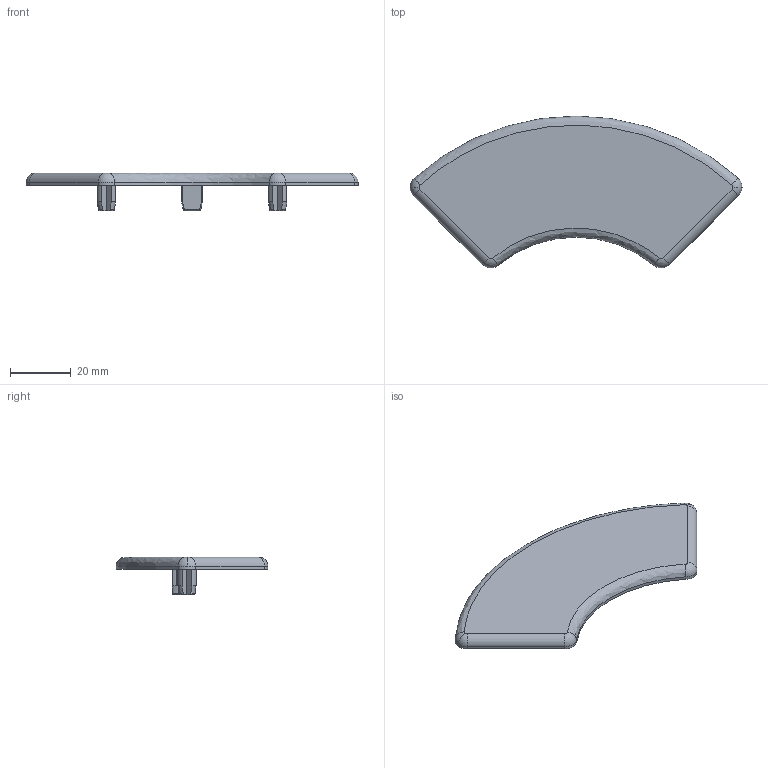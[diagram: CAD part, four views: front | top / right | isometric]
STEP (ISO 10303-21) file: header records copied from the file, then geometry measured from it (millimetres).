
FILE_DESCRIPTION (( 'STEP AP203' ), '1' );
FILE_NAME ('0108AKR4080-90.STEP', '2024-03-11T08:49:11', ( 'Windows-Benutzer' ), ( '' ), 'SwSTEP 2.0', 'SolidWorks 2023', '' );
FILE_SCHEMA (( 'CONFIG_CONTROL_DESIGN' ));
Length unit declared in the file: millimetre
Products named in the file (1): 0108AKR4080-90
Bounding box: 109.67 x 50.19 x 12.5 mm (x, y, z)
Volume: 12129.6 mm3; surface area: 9101.2 mm2
Topology: 1 solids, 1 shells, 82 faces, 219 edges, 143 vertices
Faces by surface type: plane 28, cylinder 24, bspline 13, cone 11, torus 6
Entity records: 3047 total; most frequent: CARTESIAN_POINT 1042, ORIENTED_EDGE 438, DIRECTION 365, EDGE_CURVE 219, VERTEX_POINT 143, AXIS2_PLACEMENT_3D 137, VECTOR 91, LINE 91
